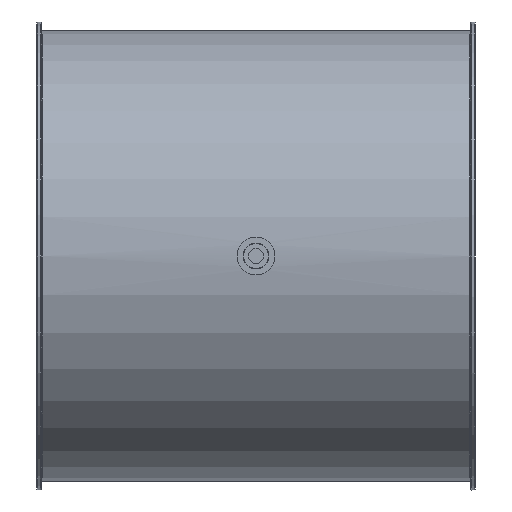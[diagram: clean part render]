
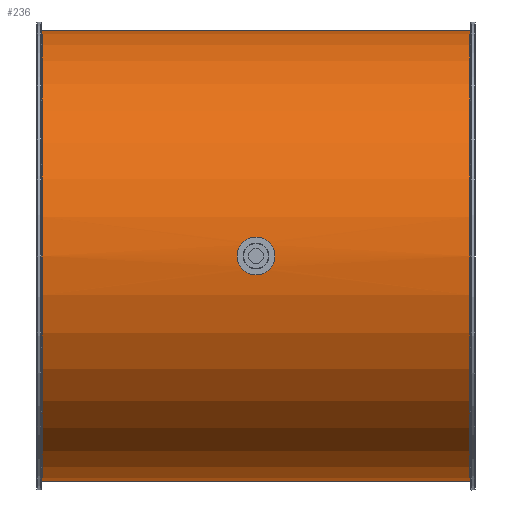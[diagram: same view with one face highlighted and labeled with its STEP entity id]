
A CAD part, front view. The second image highlights one B-rep face of the part: STEP entity #236.
In plain terms, the highlighted cylindrical face has radius 226 mm (diameter 452 mm), a full revolution.
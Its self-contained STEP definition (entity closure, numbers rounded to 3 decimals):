
#105=B_SPLINE_CURVE_WITH_KNOTS('',3,(#1983,#1984,#1985,#1986,#1987,#1988,
#1989,#1990,#1991,#1992,#1993,#1994,#1995,#1996,#1997,#1998,#1999,#2000),
 .UNSPECIFIED.,.T.,.F.,(2,2,2,2,2,2,2,2,2,2,2),(-0.125,0.,0.125,
0.25,0.375,0.5,0.625,
0.75,0.875,1.,1.125),.UNSPECIFIED.);
#106=B_SPLINE_CURVE_WITH_KNOTS('',3,(#2002,#2003,#2004,#2005,#2006,#2007,
#2008,#2009,#2010,#2011,#2012,#2013,#2014,#2015,#2016,#2017,#2018,#2019),
 .UNSPECIFIED.,.T.,.F.,(2,2,2,2,2,2,2,2,2,2,2),(-0.125,0.,0.125,
0.25,0.375,0.5,0.625,
0.75,0.875,1.,1.125),.UNSPECIFIED.);
#152=CYLINDRICAL_SURFACE('',#1346,226.);
#236=ADVANCED_FACE('',(#464,#465,#466,#467),#152,.T.);
#357=CIRCLE('',#1344,226.);
#358=CIRCLE('',#1345,226.);
#464=FACE_BOUND('',#626,.T.);
#465=FACE_BOUND('',#627,.T.);
#466=FACE_BOUND('',#628,.T.);
#467=FACE_BOUND('',#629,.T.);
#626=EDGE_LOOP('',(#868));
#627=EDGE_LOOP('',(#869));
#628=EDGE_LOOP('',(#870));
#629=EDGE_LOOP('',(#871));
#868=ORIENTED_EDGE('',*,*,#1135,.T.);
#869=ORIENTED_EDGE('',*,*,#1136,.F.);
#870=ORIENTED_EDGE('',*,*,#1137,.F.);
#871=ORIENTED_EDGE('',*,*,#1138,.T.);
#1014=VERTEX_POINT('',#1982);
#1015=VERTEX_POINT('',#2001);
#1016=VERTEX_POINT('',#2020);
#1017=VERTEX_POINT('',#2022);
#1135=EDGE_CURVE('',#1014,#1014,#357,.T.);
#1136=EDGE_CURVE('',#1015,#1015,#105,.T.);
#1137=EDGE_CURVE('',#1016,#1016,#106,.T.);
#1138=EDGE_CURVE('',#1017,#1017,#358,.T.);
#1344=AXIS2_PLACEMENT_3D('',#1981,#1633,#1634);
#1345=AXIS2_PLACEMENT_3D('',#2021,#1635,#1636);
#1346=AXIS2_PLACEMENT_3D('',#2023,#1637,#1638);
#1633=DIRECTION('',(-1.,0.,0.));
#1634=DIRECTION('',(0.,0.,-1.));
#1635=DIRECTION('',(1.,0.,0.));
#1636=DIRECTION('',(0.,0.,1.));
#1637=DIRECTION('',(1.,0.,0.));
#1638=DIRECTION('',(0.,0.,-1.));
#1981=CARTESIAN_POINT('',(214.83,-109.,125.));
#1982=CARTESIAN_POINT('',(214.83,-109.,-101.));
#1983=CARTESIAN_POINT('',(3.436,116.626,112.));
#1984=CARTESIAN_POINT('',(-3.436,116.626,112.));
#1985=CARTESIAN_POINT('',(-6.795,116.715,113.41));
#1986=CARTESIAN_POINT('',(-11.591,116.911,118.207));
#1987=CARTESIAN_POINT('',(-12.998,117.,121.601));
#1988=CARTESIAN_POINT('',(-13.002,117.,128.385));
#1989=CARTESIAN_POINT('',(-11.623,116.912,131.76));
#1990=CARTESIAN_POINT('',(-6.771,116.714,136.616));
#1991=CARTESIAN_POINT('',(-3.398,116.626,137.999));
#1992=CARTESIAN_POINT('',(3.389,116.626,138.001));
#1993=CARTESIAN_POINT('',(6.784,116.715,136.596));
#1994=CARTESIAN_POINT('',(11.583,116.91,131.806));
#1995=CARTESIAN_POINT('',(12.997,117.,128.444));
#1996=CARTESIAN_POINT('',(13.003,117.,121.582));
#1997=CARTESIAN_POINT('',(11.597,116.911,118.216));
#1998=CARTESIAN_POINT('',(6.802,116.716,113.414));
#1999=CARTESIAN_POINT('',(3.436,116.626,112.));
#2000=CARTESIAN_POINT('',(-3.436,116.626,112.));
#2001=CARTESIAN_POINT('',(0.,116.626,112.));
#2002=CARTESIAN_POINT('',(-3.436,-334.626,112.));
#2003=CARTESIAN_POINT('',(3.436,-334.626,112.));
#2004=CARTESIAN_POINT('',(6.795,-334.715,113.41));
#2005=CARTESIAN_POINT('',(11.591,-334.911,118.207));
#2006=CARTESIAN_POINT('',(12.998,-335.,121.601));
#2007=CARTESIAN_POINT('',(13.002,-335.,128.385));
#2008=CARTESIAN_POINT('',(11.623,-334.912,131.76));
#2009=CARTESIAN_POINT('',(6.771,-334.714,136.616));
#2010=CARTESIAN_POINT('',(3.398,-334.626,137.999));
#2011=CARTESIAN_POINT('',(-3.389,-334.626,138.001));
#2012=CARTESIAN_POINT('',(-6.784,-334.715,136.596));
#2013=CARTESIAN_POINT('',(-11.583,-334.91,131.806));
#2014=CARTESIAN_POINT('',(-12.997,-335.,128.444));
#2015=CARTESIAN_POINT('',(-13.003,-335.,121.582));
#2016=CARTESIAN_POINT('',(-11.597,-334.911,118.216));
#2017=CARTESIAN_POINT('',(-6.802,-334.716,113.414));
#2018=CARTESIAN_POINT('',(-3.436,-334.626,112.));
#2019=CARTESIAN_POINT('',(3.436,-334.626,112.));
#2020=CARTESIAN_POINT('',(0.,-334.626,112.));
#2021=CARTESIAN_POINT('',(-214.83,-109.,125.));
#2022=CARTESIAN_POINT('',(-214.83,-109.,351.));
#2023=CARTESIAN_POINT('',(-220.,-109.,125.));
